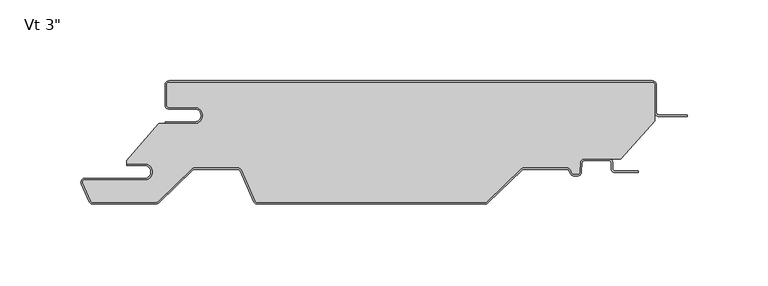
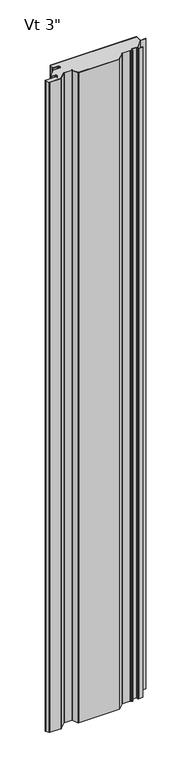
"""IFC4 building model written with IfcOpenShell, lengths in millimetres: plate geometry."""

from ifc_helpers import new_model, si_unit, point, frame_2d, origin, origin_with_axes, place, context, project, spatial, polyline, circle_curve, trimmed, segment, composite_curve, outline, extrude, source, transform, mapped, element, save


def plate_3c7ca039(model_context):
    return source(origin(), model_context, "Body", "SweptSolid", [
        extrude(outline(composite_curve([segment(trimmed(circle_curve(frame_2d((-133.35, -21.4324412)), 4.96875), [point((-133.35, -26.4011912))], [point((-133.35, -16.4636912))], True, "CARTESIAN"), True, "CONTINUOUS"), segment(polyline([(-133.35, -16.4636912), (-149.225, -16.4636912)]), True, "CONTINUOUS"), segment(trimmed(circle_curve(frame_2d((-149.225, -15.0824412)), 1.38125), [point((-149.225, -16.4636912))], [point((-150.60625, -15.0824412))], False, "CARTESIAN"), True, "CONTINUOUS"), segment(polyline([(-150.60625, -15.0824412), (-150.60625, -2.3824412)]), True, "CONTINUOUS"), segment(trimmed(circle_curve(frame_2d((-149.225, -2.3824412)), 1.38125), [point((-150.60625, -2.3824412))], [point((-149.225, -1.0011912))], False, "CARTESIAN"), True, "CONTINUOUS"), segment(polyline([(-149.225, -1.0011912), (149.225, -1.0011912)]), True, "CONTINUOUS"), segment(trimmed(circle_curve(frame_2d((149.225, -2.3824412)), 1.38125), [point((149.225, -1.0011912))], [point((150.60625, -2.3824412))], False, "CARTESIAN"), True, "CONTINUOUS"), segment(polyline([(150.60625, -2.3824412), (150.60625, -24.8719682), (129.7892934, -48.2136912), (107.3620957, -48.2136912)]), True, "CONTINUOUS"), segment(trimmed(circle_curve(frame_2d((107.3620957, -50.8011912)), 2.5875), [point((107.3620957, -48.2136912))], [point((104.7781418, -50.6657719))], True, "CARTESIAN"), True, "CONTINUOUS"), segment(polyline([(104.7781418, -50.6657719), (104.4760655, -56.4297302)]), True, "CONTINUOUS"), segment(trimmed(circle_curve(frame_2d((103.0967085, -56.3574412)), 1.38125), [point((104.4760655, -56.4297302))], [point((103.0967085, -57.7386912))], False, "CARTESIAN"), True, "CONTINUOUS"), segment(polyline([(103.0967085, -57.7386912), (100.7692019, -57.7386912)]), True, "CONTINUOUS"), segment(trimmed(circle_curve(frame_2d((100.7692019, -56.3574412)), 1.38125), [point((100.7692019, -57.7386912))], [point((99.5062016, -56.9166208))], False, "CARTESIAN"), True, "CONTINUOUS"), segment(polyline([(99.5062016, -56.9166208), (98.7577806, -55.2261871)]), True, "CONTINUOUS"), segment(trimmed(circle_curve(frame_2d((96.3917981, -56.2737)), 2.5875), [point((98.7577806, -55.2261871))], [point((96.3917981, -53.6862))], True, "CARTESIAN"), True, "CONTINUOUS"), segment(polyline([(96.3917981, -53.6862), (69.8679503, -53.6862)]), True, "CONTINUOUS"), segment(trimmed(circle_curve(frame_2d((69.8679503, -56.2737)), 2.5875), [point((69.8679503, -53.6862))], [point((68.0682996, -54.4145567))], True, "CARTESIAN"), True, "CONTINUOUS"), segment(polyline([(68.0682996, -54.4145567), (46.9973962, -74.8111912)]), True, "CONTINUOUS"), segment(trimmed(circle_curve(frame_2d((46.0367131, -73.81875)), 1.38125), [point((46.9973962, -74.8111912))], [point((46.0367131, -75.2))], False, "CARTESIAN"), True, "CONTINUOUS"), segment(polyline([(46.0367131, -75.2), (-94.6999943, -75.2)]), True, "CONTINUOUS"), segment(trimmed(circle_curve(frame_2d((-94.6999943, -73.81875)), 1.38125), [point((-94.6999943, -75.2))], [point((-95.9629946, -74.3779296))], False, "CARTESIAN"), True, "CONTINUOUS"), segment(polyline([(-95.9629946, -74.3779296), (-104.4422194, -55.2261871)]), True, "CONTINUOUS"), segment(trimmed(circle_curve(frame_2d((-106.8082019, -56.2737)), 2.5875), [point((-104.4422194, -55.2261871))], [point((-106.8082019, -53.6862))], True, "CARTESIAN"), True, "CONTINUOUS"), segment(polyline([(-106.8082019, -53.6862), (-133.3320497, -53.6862)]), True, "CONTINUOUS"), segment(trimmed(circle_curve(frame_2d((-133.3320497, -56.2737)), 2.5875), [point((-133.3320497, -53.6862))], [point((-135.1317004, -54.4145567))], True, "CARTESIAN"), True, "CONTINUOUS"), segment(polyline([(-135.1317004, -54.4145567), (-155.9939431, -74.6092077)]), True, "CONTINUOUS"), segment(trimmed(circle_curve(frame_2d((-157.4536946, -73.1012)), 2.0988), [point((-155.9939431, -74.6092077))], [point((-157.4536946, -75.2))], False, "CARTESIAN"), True, "CONTINUOUS"), segment(polyline([(-157.4536946, -75.2), (-196.2999943, -75.2)]), True, "CONTINUOUS"), segment(trimmed(circle_curve(frame_2d((-196.2999943, -73.81875)), 1.38125), [point((-196.2999943, -75.2))], [point((-197.5629946, -74.3779296))], False, "CARTESIAN"), True, "CONTINUOUS"), segment(polyline([(-197.5629946, -74.3779296), (-202.4824052, -63.2666208)]), True, "CONTINUOUS"), segment(trimmed(circle_curve(frame_2d((-201.2194049, -62.7074412)), 1.38125), [point((-202.4824052, -63.2666208))], [point((-201.2194049, -61.3261912))], False, "CARTESIAN"), True, "CONTINUOUS"), segment(polyline([(-201.2194049, -61.3261912), (-164.30625, -61.3261912)]), True, "CONTINUOUS"), segment(trimmed(circle_curve(frame_2d((-164.30625, -56.3574412)), 4.96875), [point((-164.30625, -61.3261912))], [point((-164.30625, -51.3886912))], True, "CARTESIAN"), True, "CONTINUOUS"), segment(polyline([(-164.30625, -51.3886912), (-175.41875, -51.3886912), (-175.41875, -49.233822), (-155.5976612, -26.4011912), (-133.35, -26.4011912)]), True, "CONTINUOUS")], self_intersect=False)), origin_with_axes(), (0.0, 0.0, 1.0), 2400.0),
        extrude(outline(composite_curve([segment(polyline([(-151.60625, -25.4), (-133.35, -25.4)]), True, "CONTINUOUS"), segment(trimmed(circle_curve(frame_2d((-133.35, -21.43125)), 3.96875), [point((-133.35, -25.4))], [point((-133.35, -17.4625))], True, "CARTESIAN"), True, "CONTINUOUS"), segment(polyline([(-133.35, -17.4625), (-149.225, -17.4625)]), True, "CONTINUOUS"), segment(trimmed(circle_curve(frame_2d((-149.225, -15.08125)), 2.38125), [point((-149.225, -17.4625))], [point((-151.60625, -15.08125))], False, "CARTESIAN"), True, "CONTINUOUS"), segment(polyline([(-151.60625, -15.08125), (-151.60625, -2.38125)]), True, "CONTINUOUS"), segment(trimmed(circle_curve(frame_2d((-149.225, -2.38125)), 2.38125), [point((-151.60625, -2.38125))], [point((-149.225, 0.0))], False, "CARTESIAN"), True, "CONTINUOUS"), segment(polyline([(-149.225, 0.0), (149.225, 0.0)]), True, "CONTINUOUS"), segment(trimmed(circle_curve(frame_2d((149.225, -2.38125)), 2.38125), [point((149.225, 0.0))], [point((151.60625, -2.38125))], False, "CARTESIAN"), True, "CONTINUOUS"), segment(polyline([(151.60625, -2.38125), (151.60625, -19.446875)]), True, "CONTINUOUS"), segment(trimmed(circle_curve(frame_2d((153.19375, -19.446875)), 1.5875), [point((151.60625, -19.446875))], [point((153.19375, -21.034375))], True, "CARTESIAN"), True, "CONTINUOUS"), segment(polyline([(153.19375, -21.034375), (170.65625, -21.034375), (170.65625, -22.034375), (153.19375, -22.034375)]), True, "CONTINUOUS"), segment(trimmed(circle_curve(frame_2d((153.19375, -19.446875)), 2.5875), [point((153.19375, -22.034375))], [point((150.60625, -19.446875))], False, "CARTESIAN"), True, "CONTINUOUS"), segment(polyline([(150.60625, -19.446875), (150.60625, -2.38125)]), True, "CONTINUOUS"), segment(trimmed(circle_curve(frame_2d((149.225, -2.38125)), 1.38125), [point((150.60625, -2.38125))], [point((149.225, -1.0))], True, "CARTESIAN"), True, "CONTINUOUS"), segment(polyline([(149.225, -1.0), (-149.225, -1.0)]), True, "CONTINUOUS"), segment(trimmed(circle_curve(frame_2d((-149.225, -2.38125)), 1.38125), [point((-149.225, -1.0))], [point((-150.60625, -2.38125))], True, "CARTESIAN"), True, "CONTINUOUS"), segment(polyline([(-150.60625, -2.38125), (-150.60625, -15.08125)]), True, "CONTINUOUS"), segment(trimmed(circle_curve(frame_2d((-149.225, -15.08125)), 1.38125), [point((-150.60625, -15.08125))], [point((-149.225, -16.4625))], True, "CARTESIAN"), True, "CONTINUOUS"), segment(polyline([(-149.225, -16.4625), (-133.35, -16.4625)]), True, "CONTINUOUS"), segment(trimmed(circle_curve(frame_2d((-133.35, -21.43125)), 4.96875), [point((-133.35, -16.4625))], [point((-133.35, -26.4))], False, "CARTESIAN"), True, "CONTINUOUS"), segment(polyline([(-133.35, -26.4), (-151.60625, -26.4), (-151.60625, -25.4)]), True, "CONTINUOUS")], self_intersect=False)), origin_with_axes(), (0.0, 0.0, 1.0), 2400.0),
        extrude(outline(composite_curve([segment(trimmed(circle_curve(frame_2d((-164.30625, -56.3574412)), 3.96875), [point((-164.30625, -60.3261912))], [point((-164.30625, -52.3886912))], True, "CARTESIAN"), True, "CONTINUOUS"), segment(polyline([(-164.30625, -52.3886912), (-175.41875, -52.3886912), (-175.41875, -51.3886912), (-164.30625, -51.3886912)]), True, "CONTINUOUS"), segment(trimmed(circle_curve(frame_2d((-164.30625, -56.3574412)), 4.96875), [point((-164.30625, -51.3886912))], [point((-164.30625, -61.3261912))], False, "CARTESIAN"), True, "CONTINUOUS"), segment(polyline([(-164.30625, -61.3261912), (-201.2194049, -61.3261912)]), True, "CONTINUOUS"), segment(trimmed(circle_curve(frame_2d((-201.2194049, -62.7074412)), 1.38125), [point((-201.2194049, -61.3261912))], [point((-202.4824052, -63.2666208))], True, "CARTESIAN"), True, "CONTINUOUS"), segment(polyline([(-202.4824052, -63.2666208), (-197.5629946, -74.3779296)]), True, "CONTINUOUS"), segment(trimmed(circle_curve(frame_2d((-196.2999943, -73.81875)), 1.38125), [point((-197.5629946, -74.3779296))], [point((-196.2999943, -75.2))], True, "CARTESIAN"), True, "CONTINUOUS"), segment(polyline([(-196.2999943, -75.2), (-157.4536946, -75.2)]), True, "CONTINUOUS"), segment(trimmed(circle_curve(frame_2d((-157.4536946, -73.1012)), 2.0988), [point((-157.4536946, -75.2))], [point((-155.9939431, -74.6092077))], True, "CARTESIAN"), True, "CONTINUOUS"), segment(polyline([(-155.9939431, -74.6092077), (-135.1317004, -54.4145567)]), True, "CONTINUOUS"), segment(trimmed(circle_curve(frame_2d((-133.3320497, -56.2737)), 2.5875), [point((-135.1317004, -54.4145567))], [point((-133.3320497, -53.6862))], False, "CARTESIAN"), True, "CONTINUOUS"), segment(polyline([(-133.3320497, -53.6862), (-106.8082019, -53.6862)]), True, "CONTINUOUS"), segment(trimmed(circle_curve(frame_2d((-106.8082019, -56.2737)), 2.5875), [point((-106.8082019, -53.6862))], [point((-104.4422194, -55.2261871))], False, "CARTESIAN"), True, "CONTINUOUS"), segment(polyline([(-104.4422194, -55.2261871), (-95.9629946, -74.3779296)]), True, "CONTINUOUS"), segment(trimmed(circle_curve(frame_2d((-94.6999943, -73.81875)), 1.38125), [point((-95.9629946, -74.3779296))], [point((-94.6999943, -75.2))], True, "CARTESIAN"), True, "CONTINUOUS"), segment(polyline([(-94.6999943, -75.2), (46.0367131, -75.2)]), True, "CONTINUOUS"), segment(trimmed(circle_curve(frame_2d((46.0367131, -73.81875)), 1.38125), [point((46.0367131, -75.2))], [point((46.9973962, -74.8111912))], True, "CARTESIAN"), True, "CONTINUOUS"), segment(polyline([(46.9973962, -74.8111912), (68.0682996, -54.4145567)]), True, "CONTINUOUS"), segment(trimmed(circle_curve(frame_2d((69.8679503, -56.2737)), 2.5875), [point((68.0682996, -54.4145567))], [point((69.8679503, -53.6862))], False, "CARTESIAN"), True, "CONTINUOUS"), segment(polyline([(69.8679503, -53.6862), (96.3917981, -53.6862)]), True, "CONTINUOUS"), segment(trimmed(circle_curve(frame_2d((96.3917981, -56.2737)), 2.5875), [point((96.3917981, -53.6862))], [point((98.7577806, -55.2261871))], False, "CARTESIAN"), True, "CONTINUOUS"), segment(polyline([(98.7577806, -55.2261871), (99.5062016, -56.9166208)]), True, "CONTINUOUS"), segment(trimmed(circle_curve(frame_2d((100.7692019, -56.3574412)), 1.38125), [point((99.5062016, -56.9166208))], [point((100.7692019, -57.7386912))], True, "CARTESIAN"), True, "CONTINUOUS"), segment(polyline([(100.7692019, -57.7386912), (103.0967085, -57.7386912)]), True, "CONTINUOUS"), segment(trimmed(circle_curve(frame_2d((103.0967085, -56.3574412)), 1.38125), [point((103.0967085, -57.7386912))], [point((104.4760655, -56.4297302))], True, "CARTESIAN"), True, "CONTINUOUS"), segment(polyline([(104.4760655, -56.4297302), (104.7781418, -50.6657719)]), True, "CONTINUOUS"), segment(trimmed(circle_curve(frame_2d((107.3620957, -50.8011912)), 2.5875), [point((104.7781418, -50.6657719))], [point((107.3620957, -48.2136912))], False, "CARTESIAN"), True, "CONTINUOUS"), segment(polyline([(107.3620957, -48.2136912), (122.2375, -48.2136912)]), True, "CONTINUOUS"), segment(trimmed(circle_curve(frame_2d((122.2375, -50.8011912)), 2.5875), [point((122.2375, -48.2136912))], [point((124.825, -50.8011912))], False, "CARTESIAN"), True, "CONTINUOUS"), segment(polyline([(124.825, -50.8011912), (124.825, -54.3730662)]), True, "CONTINUOUS"), segment(trimmed(circle_curve(frame_2d((126.20625, -54.3730662)), 1.38125), [point((124.825, -54.3730662))], [point((126.20625, -55.7543162))], True, "CARTESIAN"), True, "CONTINUOUS"), segment(polyline([(126.20625, -55.7543162), (140.49375, -55.7543162), (140.49375, -56.7543162), (126.20625, -56.7543162)]), True, "CONTINUOUS"), segment(trimmed(circle_curve(frame_2d((126.20625, -54.3730662)), 2.38125), [point((126.20625, -56.7543162))], [point((123.825, -54.3730662))], False, "CARTESIAN"), True, "CONTINUOUS"), segment(polyline([(123.825, -54.3730662), (123.825, -50.8011912)]), True, "CONTINUOUS"), segment(trimmed(circle_curve(frame_2d((122.2375, -50.8011912)), 1.5875), [point((123.825, -50.8011912))], [point((122.2375, -49.2136912))], True, "CARTESIAN"), True, "CONTINUOUS"), segment(polyline([(122.2375, -49.2136912), (107.3620957, -49.2136912)]), True, "CONTINUOUS"), segment(trimmed(circle_curve(frame_2d((107.3620957, -50.8011912)), 1.5875), [point((107.3620957, -49.2136912))], [point((105.7767713, -50.7181078))], True, "CARTESIAN"), True, "CONTINUOUS"), segment(polyline([(105.7767713, -50.7181078), (105.4746951, -56.4820662)]), True, "CONTINUOUS"), segment(trimmed(circle_curve(frame_2d((103.0967085, -56.3574412)), 2.38125), [point((105.4746951, -56.4820662))], [point((103.0967085, -58.7386912))], False, "CARTESIAN"), True, "CONTINUOUS"), segment(polyline([(103.0967085, -58.7386912), (100.7692019, -58.7386912)]), True, "CONTINUOUS"), segment(trimmed(circle_curve(frame_2d((100.7692019, -56.3574412)), 2.38125), [point((100.7692019, -58.7386912))], [point((98.5918123, -57.3214567))], False, "CARTESIAN"), True, "CONTINUOUS"), segment(polyline([(98.5918123, -57.3214567), (97.8433912, -55.631023)]), True, "CONTINUOUS"), segment(trimmed(circle_curve(frame_2d((96.3917981, -56.2737)), 1.5875), [point((97.8433912, -55.631023))], [point((96.3917981, -54.6862))], True, "CARTESIAN"), True, "CONTINUOUS"), segment(polyline([(96.3917981, -54.6862), (69.8679503, -54.6862)]), True, "CONTINUOUS"), segment(trimmed(circle_curve(frame_2d((69.8679503, -56.2737)), 1.5875), [point((69.8679503, -54.6862))], [point((68.7638168, -55.1330662))], True, "CARTESIAN"), True, "CONTINUOUS"), segment(polyline([(68.7638168, -55.1330662), (47.6929134, -75.5297007)]), True, "CONTINUOUS"), segment(trimmed(circle_curve(frame_2d((46.0367131, -73.81875)), 2.38125), [point((47.6929134, -75.5297007))], [point((46.0367131, -76.2))], False, "CARTESIAN"), True, "CONTINUOUS"), segment(polyline([(46.0367131, -76.2), (-94.6999943, -76.2)]), True, "CONTINUOUS"), segment(trimmed(circle_curve(frame_2d((-94.6999943, -73.81875)), 2.38125), [point((-94.6999943, -76.2))], [point((-96.8773839, -74.7827655))], False, "CARTESIAN"), True, "CONTINUOUS"), segment(polyline([(-96.8773839, -74.7827655), (-105.3566088, -55.631023)]), True, "CONTINUOUS"), segment(trimmed(circle_curve(frame_2d((-106.8082019, -56.2737)), 1.5875), [point((-105.3566088, -55.631023))], [point((-106.8082019, -54.6862))], True, "CARTESIAN"), True, "CONTINUOUS"), segment(polyline([(-106.8082019, -54.6862), (-133.3320497, -54.6862)]), True, "CONTINUOUS"), segment(trimmed(circle_curve(frame_2d((-133.3320497, -56.2737)), 1.5875), [point((-133.3320497, -54.6862))], [point((-134.4361832, -55.1330662))], True, "CARTESIAN"), True, "CONTINUOUS"), segment(polyline([(-134.4361832, -55.1330662), (-155.2984259, -75.3277172)]), True, "CONTINUOUS"), segment(trimmed(circle_curve(frame_2d((-157.4536946, -73.1012)), 3.0988), [point((-155.2984259, -75.3277172))], [point((-157.4536946, -76.2))], False, "CARTESIAN"), True, "CONTINUOUS"), segment(polyline([(-157.4536946, -76.2), (-196.2999943, -76.2)]), True, "CONTINUOUS"), segment(trimmed(circle_curve(frame_2d((-196.2999943, -73.81875)), 2.38125), [point((-196.2999943, -76.2))], [point((-198.4773839, -74.7827655))], False, "CARTESIAN"), True, "CONTINUOUS"), segment(polyline([(-198.4773839, -74.7827655), (-203.3967946, -63.6714567)]), True, "CONTINUOUS"), segment(trimmed(circle_curve(frame_2d((-201.2194049, -62.7074412)), 2.38125), [point((-203.3967946, -63.6714567))], [point((-201.2194049, -60.3261912))], False, "CARTESIAN"), True, "CONTINUOUS"), segment(polyline([(-201.2194049, -60.3261912), (-164.30625, -60.3261912)]), True, "CONTINUOUS")], self_intersect=False)), origin_with_axes(), (0.0, 0.0, 1.0), 2400.0),
    ])


if __name__ == "__main__":
    model = new_model("IFC4")
    model_context = context("Model", 3, world=origin())
    ifc_project = project(units=[si_unit("LENGTHUNIT", "METRE", prefix="MILLI")], contexts=[model_context])
    site = spatial("IfcSite", under=ifc_project)
    building = spatial("IfcBuilding", under=site)
    placement = place(None, origin())
    plate_shape = plate_3c7ca039(model_context)
    element("IfcPlate", 1, ObjectType="KIP-12-DWR-R19-CP-Vt-A : Vt 3\"", at=placement, inside=building, context=model_context, shape_type="MappedRepresentation", body=[
        mapped(plate_shape, transform((0.0, 0.0, 0.0), x_axis=(1.0, 0.0, 0.0), y_axis=(0.0, 1.0, 0.0), z_axis=(0.0, 0.0, 1.0))),
    ])
    save(model, "model.ifc")
